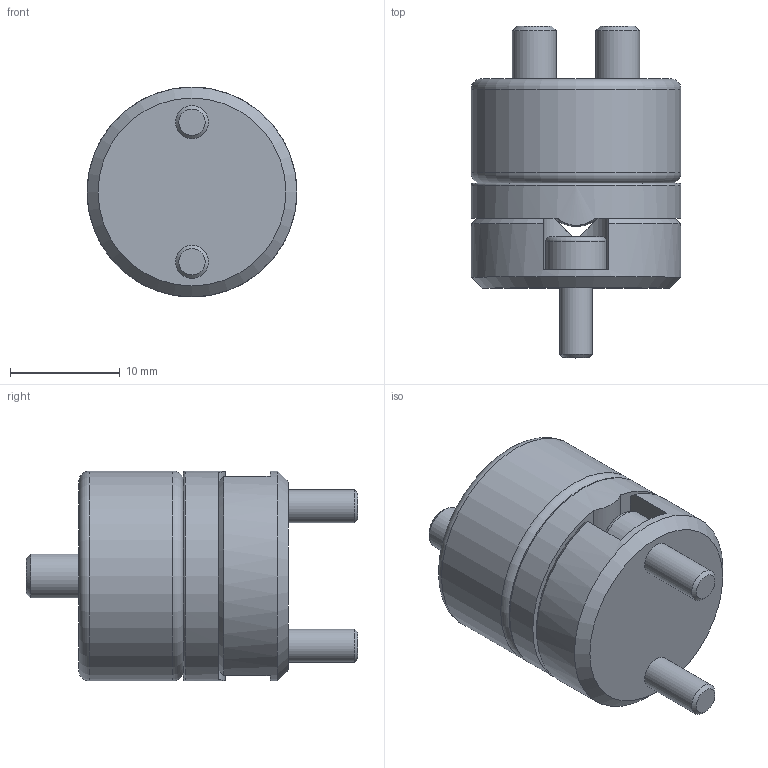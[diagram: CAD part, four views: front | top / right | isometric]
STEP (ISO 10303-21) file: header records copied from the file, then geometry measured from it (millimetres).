
FILE_DESCRIPTION( ( 'STEP AP203' ), ' ' );
FILE_NAME( 'p:/temp/worker_48/4736_1008/app_84_12016101710034783500567260eae72_000000_00_00_000000/format_0/SRTM-36.stp', '2016-10-17T08:03:48', ( '' ), ( '' ), ' ', 'PARTsolutions', ' ' );
FILE_SCHEMA( ( 'CONFIG_CONTROL_DESIGN' ) );
Length unit declared in the file: millimetre
Products named in the file (4): SRTM-36; _E 3043/19(0); _E 1200/ 3 X 8; _E 3042/19
Assembly tree (4 placements, depth 2):
  SRTM-36
    _E 3043/19(0)
    _E 1200/ 3 X 8  x2
    _E 3042/19
Bounding box: 19.1 x 30.2 x 19.1 mm (x, y, z)
Volume: 5251.9 mm3; surface area: 2977.6 mm2
Topology: 4 solids, 4 shells, 85 faces, 172 edges, 104 vertices
Faces by surface type: plane 39, cylinder 19, cone 19, torus 8
Full cylindrical faces by diameter (mm): 3 x4, 4 x2, 5.5 x2, 5.6 x2, 15.28 x1, 19.1 x3
Entity records: 1836 total; most frequent: CARTESIAN_POINT 395, DIRECTION 289, ORIENTED_EDGE 222, AXIS2_PLACEMENT_3D 126, EDGE_CURVE 111, EDGE_LOOP 97, FACE_OUTER_BOUND 82, VERTEX_POINT 80
